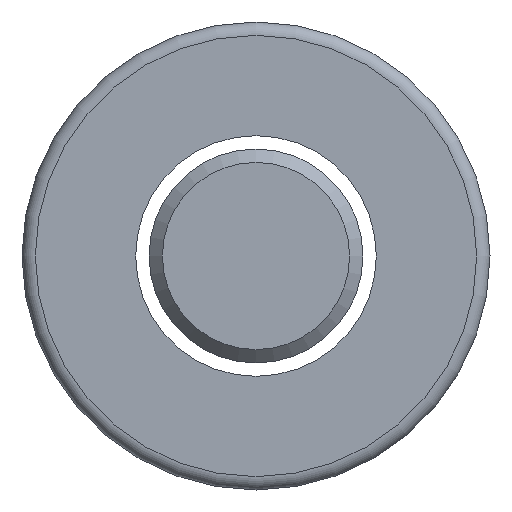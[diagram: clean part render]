
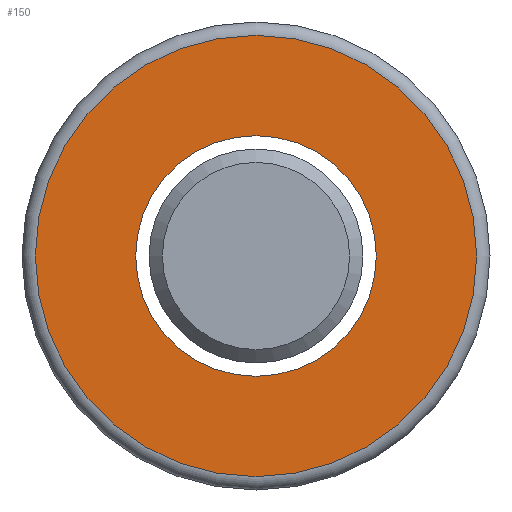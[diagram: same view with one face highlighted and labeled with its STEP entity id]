
A CAD part, left-side view. The second image highlights one B-rep face of the part: STEP entity #150.
In plain terms, the highlighted planar face has unit normal (-1, 0, 0).
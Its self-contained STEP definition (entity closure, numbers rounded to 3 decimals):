
#124=PLANE('',#361);
#134=FACE_OUTER_BOUND('',#201,.T.);
#150=ADVANCED_FACE('',(#134,#176),#124,.F.);
#176=FACE_BOUND('',#202,.T.);
#201=EDGE_LOOP('',(#236));
#202=EDGE_LOOP('',(#237));
#236=ORIENTED_EDGE('',*,*,#309,.F.);
#237=ORIENTED_EDGE('',*,*,#308,.T.);
#285=VERTEX_POINT('',#481);
#286=VERTEX_POINT('',#484);
#308=EDGE_CURVE('',#285,#285,#334,.T.);
#309=EDGE_CURVE('',#286,#286,#335,.T.);
#334=CIRCLE('',#358,4.5);
#335=CIRCLE('',#360,8.25);
#358=AXIS2_PLACEMENT_3D('',#480,#409,#410);
#360=AXIS2_PLACEMENT_3D('',#483,#413,#414);
#361=AXIS2_PLACEMENT_3D('',#485,#415,#416);
#409=DIRECTION('',(1.,0.,0.));
#410=DIRECTION('',(0.,1.,0.));
#413=DIRECTION('',(1.,0.,0.));
#414=DIRECTION('',(0.,1.,0.));
#415=DIRECTION('',(1.,0.,0.));
#416=DIRECTION('',(0.,1.,0.));
#480=CARTESIAN_POINT('',(-28.5,0.,0.));
#481=CARTESIAN_POINT('',(-28.5,4.5,0.));
#483=CARTESIAN_POINT('',(-28.5,0.,0.));
#484=CARTESIAN_POINT('',(-28.5,8.25,0.));
#485=CARTESIAN_POINT('',(-28.5,6.375,0.));
